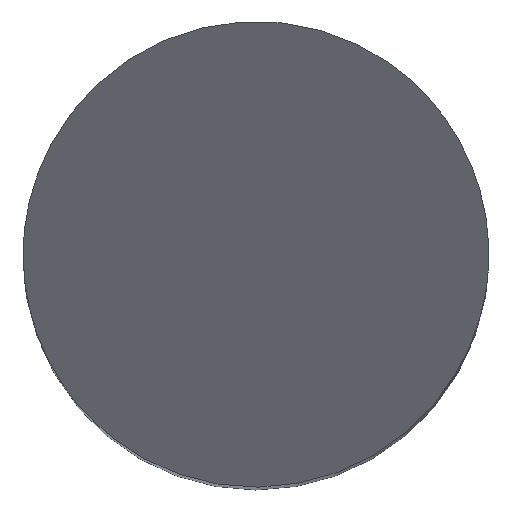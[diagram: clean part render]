
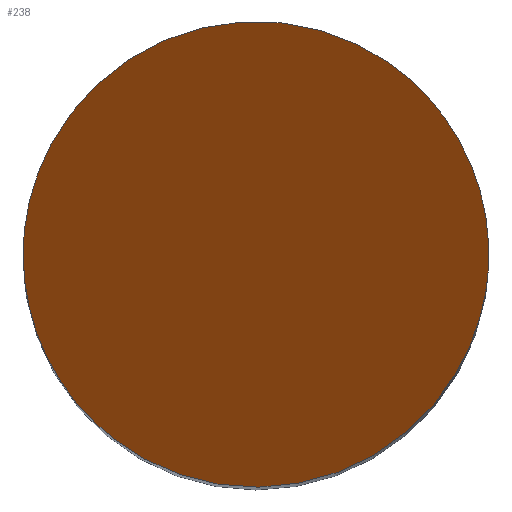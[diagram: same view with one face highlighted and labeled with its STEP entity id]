
A CAD part, top view. The second image highlights one B-rep face of the part: STEP entity #238.
In plain terms, the highlighted planar face has unit normal (-0.707, 0, 0.707).
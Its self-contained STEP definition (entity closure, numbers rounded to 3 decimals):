
#20=ELLIPSE('',#299,70.711,50.);
#21=ELLIPSE('',#300,70.711,50.);
#44=PLANE('',#301);
#69=FACE_OUTER_BOUND('',#92,.T.);
#92=EDGE_LOOP('',(#217,#218,#219));
#100=LINE('',#449,#109);
#109=VECTOR('',#377,10.);
#139=VERTEX_POINT('',#447);
#140=VERTEX_POINT('',#448);
#141=VERTEX_POINT('',#452);
#163=EDGE_CURVE('',#139,#140,#100,.T.);
#165=EDGE_CURVE('',#140,#141,#20,.T.);
#166=EDGE_CURVE('',#141,#139,#21,.T.);
#217=ORIENTED_EDGE('',*,*,#165,.T.);
#218=ORIENTED_EDGE('',*,*,#166,.T.);
#219=ORIENTED_EDGE('',*,*,#163,.T.);
#238=ADVANCED_FACE('',(#69),#44,.T.);
#299=AXIS2_PLACEMENT_3D('',#453,#382,#383);
#300=AXIS2_PLACEMENT_3D('',#454,#384,#385);
#301=AXIS2_PLACEMENT_3D('',#456,#387,#388);
#377=DIRECTION('',(0.,1.,0.));
#382=DIRECTION('center_axis',(-0.707,0.,0.707));
#383=DIRECTION('ref_axis',(0.707,0.,0.707));
#384=DIRECTION('center_axis',(-0.707,0.,0.707));
#385=DIRECTION('ref_axis',(0.707,0.,0.707));
#387=DIRECTION('center_axis',(-0.707,0.,0.707));
#388=DIRECTION('ref_axis',(0.707,0.,0.707));
#447=CARTESIAN_POINT('',(49.936,-2.527,395.));
#448=CARTESIAN_POINT('',(49.936,2.527,395.));
#449=CARTESIAN_POINT('',(49.936,0.,395.));
#452=CARTESIAN_POINT('',(-50.,0.,295.064));
#453=CARTESIAN_POINT('Origin',(0.,0.,345.064));
#454=CARTESIAN_POINT('Origin',(0.,0.,345.064));
#456=CARTESIAN_POINT('Origin',(-12.532,0.,332.532));
